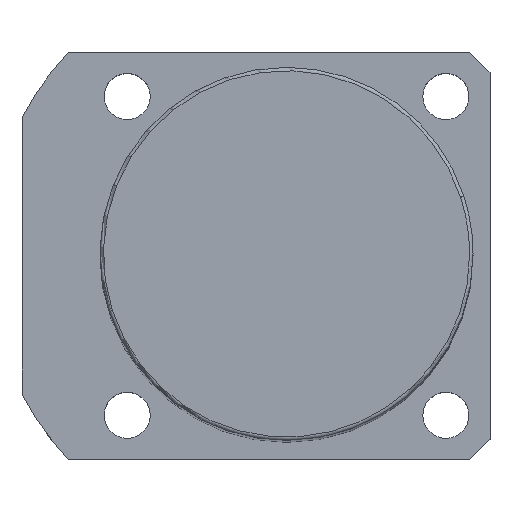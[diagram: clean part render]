
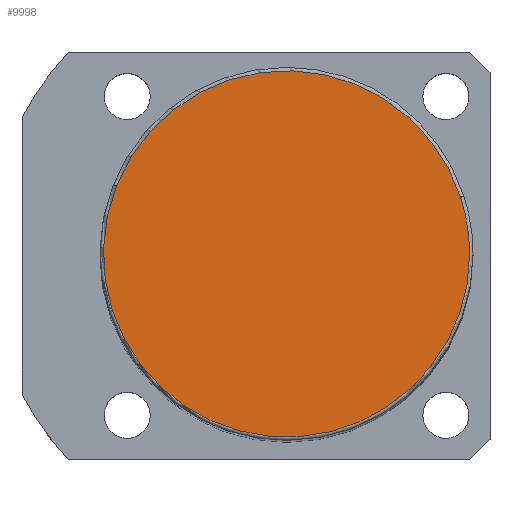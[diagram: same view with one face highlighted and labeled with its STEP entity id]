
A CAD part, top view. The second image highlights one B-rep face of the part: STEP entity #9998.
In plain terms, the highlighted planar face has unit normal (0, 0, 1).
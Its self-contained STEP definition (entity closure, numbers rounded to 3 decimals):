
#9931=CARTESIAN_POINT('',(25.679,8.343,181.0));
#9932=VERTEX_POINT('',#9931);
#9950=CARTESIAN_POINT('',(-25.679,-8.343,181.0));
#9951=VERTEX_POINT('',#9950);
#9959=CARTESIAN_POINT('',(0.0,0.0,181.0));
#9960=DIRECTION('',(0.0,0.0,1.0));
#9961=DIRECTION('',(1.0,0.0,0.0));
#9962=AXIS2_PLACEMENT_3D('',#9959,#9960,#9961);
#9963=CIRCLE('',#9962,27.0);
#9964=EDGE_CURVE('no 4607',#9932,#9951,#9963,.T.);
#9974=CARTESIAN_POINT('',(27.0,0.0,181.0));
#9975=VERTEX_POINT('',#9974);
#9976=CARTESIAN_POINT('',(0.0,0.0,181.0));
#9977=DIRECTION('',(0.0,0.0,1.0));
#9978=DIRECTION('',(1.0,0.0,0.0));
#9979=AXIS2_PLACEMENT_3D('',#9976,#9977,#9978);
#9980=CIRCLE('',#9979,27.0);
#9981=EDGE_CURVE('no 4616',#9975,#9932,#9980,.T.);
#9982=ORIENTED_EDGE('',*,*,#9981,.T.);
#9983=ORIENTED_EDGE('',*,*,#9964,.T.);
#9984=CARTESIAN_POINT('',(0.0,0.0,181.0));
#9985=DIRECTION('',(0.0,0.0,1.0));
#9986=DIRECTION('',(1.0,0.0,0.0));
#9987=AXIS2_PLACEMENT_3D('',#9984,#9985,#9986);
#9988=CIRCLE('',#9987,27.0);
#9989=EDGE_CURVE('no 4622',#9951,#9975,#9988,.T.);
#9990=ORIENTED_EDGE('',*,*,#9989,.T.);
#9991=EDGE_LOOP('',(#9982,#9983,#9990));
#9992=FACE_OUTER_BOUND('',#9991,.T.);
#9993=CARTESIAN_POINT('',(0.0,0.0,181.0));
#9994=DIRECTION('',(0.0,0.0,1.0));
#9995=DIRECTION('',(1.0,0.0,0.0));
#9996=AXIS2_PLACEMENT_3D('',#9993,#9994,#9995);
#9997=PLANE('',#9996);
#9998=ADVANCED_FACE('no 4609',(#9992),#9997,.T.);
